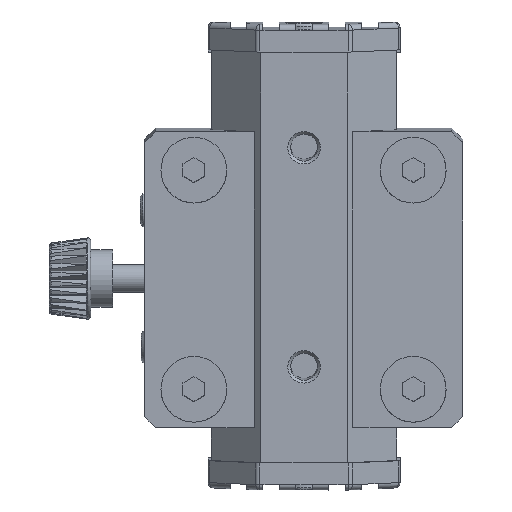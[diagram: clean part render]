
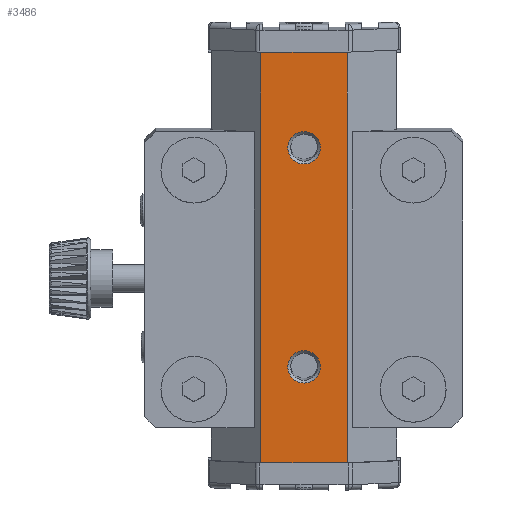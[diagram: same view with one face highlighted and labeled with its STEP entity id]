
A CAD part, top view. The second image highlights one B-rep face of the part: STEP entity #3486.
In plain terms, the highlighted planar face has unit normal (0, -0.046, 0.999).
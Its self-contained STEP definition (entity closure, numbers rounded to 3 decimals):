
#1877=LINE('',#12178,#2339);
#1994=LINE('',#12566,#2456);
#1995=LINE('',#12569,#2457);
#1996=LINE('',#12570,#2458);
#2339=VECTOR('',#9186,1.);
#2456=VECTOR('',#9591,1.);
#2457=VECTOR('',#9592,1.);
#2458=VECTOR('',#9593,1.);
#2794=PLANE('',#8224);
#3486=ADVANCED_FACE('',(#3965,#3966,#3967),#2794,.T.);
#3847=CIRCLE('',#8221,2.959);
#3848=CIRCLE('',#8223,2.959);
#3965=FACE_BOUND('',#4262,.T.);
#3966=FACE_BOUND('',#4263,.T.);
#3967=FACE_BOUND('',#4264,.T.);
#4262=EDGE_LOOP('',(#5664,#5665,#5666,#5667));
#4263=EDGE_LOOP('',(#5668));
#4264=EDGE_LOOP('',(#5669));
#5664=ORIENTED_EDGE('',*,*,#7412,.T.);
#5665=ORIENTED_EDGE('',*,*,#7413,.T.);
#5666=ORIENTED_EDGE('',*,*,#7225,.F.);
#5667=ORIENTED_EDGE('',*,*,#7414,.F.);
#5668=ORIENTED_EDGE('',*,*,#7415,.F.);
#5669=ORIENTED_EDGE('',*,*,#7410,.F.);
#6496=VERTEX_POINT('',#12173);
#6498=VERTEX_POINT('',#12177);
#6604=VERTEX_POINT('',#12563);
#6605=VERTEX_POINT('',#12567);
#6606=VERTEX_POINT('',#12568);
#6607=VERTEX_POINT('',#12572);
#7225=EDGE_CURVE('',#6498,#6496,#1877,.T.);
#7410=EDGE_CURVE('',#6604,#6604,#3847,.T.);
#7412=EDGE_CURVE('',#6605,#6606,#1994,.T.);
#7413=EDGE_CURVE('',#6606,#6496,#1995,.T.);
#7414=EDGE_CURVE('',#6605,#6498,#1996,.T.);
#7415=EDGE_CURVE('',#6607,#6607,#3848,.T.);
#8221=AXIS2_PLACEMENT_3D('',#12562,#9586,#9587);
#8223=AXIS2_PLACEMENT_3D('',#12571,#9594,#9595);
#8224=AXIS2_PLACEMENT_3D('',#12573,#9596,#9597);
#9186=DIRECTION('',(-1.,0.,0.));
#9586=DIRECTION('',(0.,-0.046,0.999));
#9587=DIRECTION('',(-1.,0.,0.));
#9591=DIRECTION('',(-1.,0.,0.));
#9592=DIRECTION('',(0.,-0.999,-0.046));
#9593=DIRECTION('',(0.,-0.999,-0.046));
#9594=DIRECTION('',(0.,-0.046,0.999));
#9595=DIRECTION('',(-1.,0.,0.));
#9596=DIRECTION('',(0.,-0.046,0.999));
#9597=DIRECTION('',(1.,0.,0.));
#12173=CARTESIAN_POINT('',(-22.728,-52.016,5.276));
#12177=CARTESIAN_POINT('',(-6.928,-52.016,5.276));
#12178=CARTESIAN_POINT('',(-6.928,-52.016,5.276));
#12562=CARTESIAN_POINT('',(-14.828,5.424,7.905));
#12563=CARTESIAN_POINT('',(-11.869,5.424,7.905));
#12566=CARTESIAN_POINT('',(-6.928,22.905,8.705));
#12567=CARTESIAN_POINT('',(-6.928,22.905,8.705));
#12568=CARTESIAN_POINT('',(-22.728,22.905,8.705));
#12569=CARTESIAN_POINT('',(-22.728,22.905,8.705));
#12570=CARTESIAN_POINT('',(-6.928,22.905,8.705));
#12571=CARTESIAN_POINT('',(-14.828,-34.534,6.076));
#12572=CARTESIAN_POINT('',(-11.869,-34.534,6.076));
#12573=CARTESIAN_POINT('',(-6.928,22.905,8.705));
